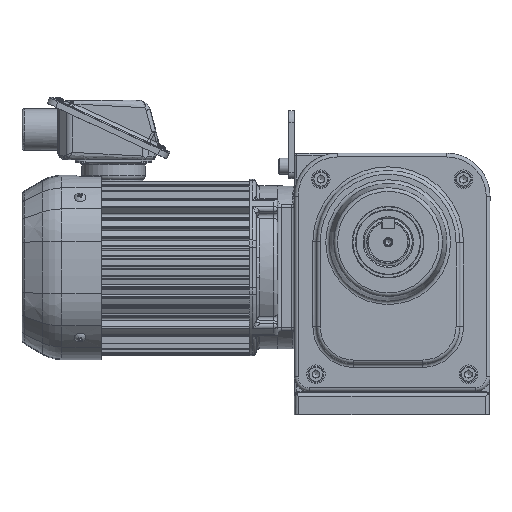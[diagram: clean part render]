
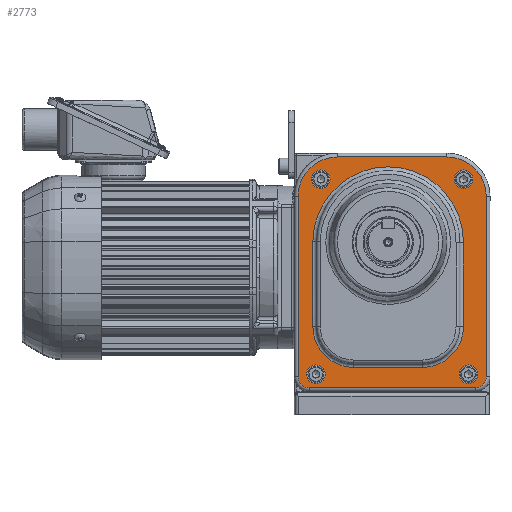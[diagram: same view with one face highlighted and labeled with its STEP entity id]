
A CAD part, front view. The second image highlights one B-rep face of the part: STEP entity #2773.
In plain terms, the highlighted planar face has unit normal (0, -1, 0).
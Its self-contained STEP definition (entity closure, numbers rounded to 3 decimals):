
#2773 = ADVANCED_FACE( '', ( #6799, #6800, #6801, #6802, #6803, #6804 ), #6805, .F. );
#6799 = FACE_BOUND( '', #15276, .T. );
#6800 = FACE_BOUND( '', #15277, .T. );
#6801 = FACE_BOUND( '', #15278, .T. );
#6802 = FACE_BOUND( '', #15279, .T. );
#6803 = FACE_OUTER_BOUND( '', #15280, .T. );
#6804 = FACE_BOUND( '', #15281, .T. );
#6805 = PLANE( '', #15282 );
#15276 = EDGE_LOOP( '', ( #28721 ) );
#15277 = EDGE_LOOP( '', ( #28722 ) );
#15278 = EDGE_LOOP( '', ( #28723 ) );
#15279 = EDGE_LOOP( '', ( #28724 ) );
#15280 = EDGE_LOOP( '', ( #28725, #28726, #28727, #28728, #28729, #28730, #28731, #28732 ) );
#15281 = EDGE_LOOP( '', ( #28733, #28734, #28735, #28736, #28737, #28738 ) );
#15282 = AXIS2_PLACEMENT_3D( '', #28739, #28740, #28741 );
#28721 = ORIENTED_EDGE( '', *, *, #41351, .T. );
#28722 = ORIENTED_EDGE( '', *, *, #41352, .T. );
#28723 = ORIENTED_EDGE( '', *, *, #41353, .T. );
#28724 = ORIENTED_EDGE( '', *, *, #41354, .T. );
#28725 = ORIENTED_EDGE( '', *, *, #41355, .T. );
#28726 = ORIENTED_EDGE( '', *, *, #39883, .T. );
#28727 = ORIENTED_EDGE( '', *, *, #41356, .T. );
#28728 = ORIENTED_EDGE( '', *, *, #41357, .T. );
#28729 = ORIENTED_EDGE( '', *, *, #41358, .T. );
#28730 = ORIENTED_EDGE( '', *, *, #40379, .T. );
#28731 = ORIENTED_EDGE( '', *, *, #41359, .T. );
#28732 = ORIENTED_EDGE( '', *, *, #41360, .T. );
#28733 = ORIENTED_EDGE( '', *, *, #39635, .T. );
#28734 = ORIENTED_EDGE( '', *, *, #41361, .T. );
#28735 = ORIENTED_EDGE( '', *, *, #40411, .T. );
#28736 = ORIENTED_EDGE( '', *, *, #41362, .T. );
#28737 = ORIENTED_EDGE( '', *, *, #41363, .T. );
#28738 = ORIENTED_EDGE( '', *, *, #39959, .T. );
#28739 = CARTESIAN_POINT( '', ( 182.256, -124.56, -74.089 ) );
#28740 = DIRECTION( '', ( 0., 1., 0. ) );
#28741 = DIRECTION( '', ( 0., 0., -1. ) );
#39635 = EDGE_CURVE( '', #45918, #45923, #45925, .F. );
#39883 = EDGE_CURVE( '', #46353, #46351, #46354, .F. );
#39959 = EDGE_CURVE( '', #46476, #45918, #46478, .T. );
#40379 = EDGE_CURVE( '', #47175, #47172, #47176, .F. );
#40411 = EDGE_CURVE( '', #47226, #47224, #47227, .F. );
#41351 = EDGE_CURVE( '', #48740, #48740, #48741, .T. );
#41352 = EDGE_CURVE( '', #48742, #48742, #48743, .T. );
#41353 = EDGE_CURVE( '', #48744, #48744, #48745, .T. );
#41354 = EDGE_CURVE( '', #48746, #48746, #48747, .T. );
#41355 = EDGE_CURVE( '', #48748, #46353, #48749, .F. );
#41356 = EDGE_CURVE( '', #46351, #48750, #48751, .F. );
#41357 = EDGE_CURVE( '', #48750, #48752, #48753, .F. );
#41358 = EDGE_CURVE( '', #48752, #47175, #48754, .F. );
#41359 = EDGE_CURVE( '', #47172, #48755, #48756, .F. );
#41360 = EDGE_CURVE( '', #48755, #48748, #48757, .F. );
#41361 = EDGE_CURVE( '', #45923, #47226, #48758, .T. );
#41362 = EDGE_CURVE( '', #47224, #48759, #48760, .T. );
#41363 = EDGE_CURVE( '', #48759, #46476, #48761, .F. );
#45918 = VERTEX_POINT( '', #55690 );
#45923 = VERTEX_POINT( '', #55696 );
#45925 = LINE( '', #55715, #55716 );
#46351 = VERTEX_POINT( '', #56493 );
#46353 = VERTEX_POINT( '', #56495 );
#46354 = LINE( '', #56496, #56497 );
#46476 = VERTEX_POINT( '', #56714 );
#46478 = CIRCLE( '', #56716, 33. );
#47172 = VERTEX_POINT( '', #58173 );
#47175 = VERTEX_POINT( '', #58176 );
#47176 = LINE( '', #58177, #58178 );
#47224 = VERTEX_POINT( '', #58363 );
#47226 = VERTEX_POINT( '', #58365 );
#47227 = LINE( '', #58366, #58367 );
#48740 = VERTEX_POINT( '', #61232 );
#48741 = CIRCLE( '', #61233, 7.5 );
#48742 = VERTEX_POINT( '', #61234 );
#48743 = CIRCLE( '', #61235, 7.5 );
#48744 = VERTEX_POINT( '', #61236 );
#48745 = CIRCLE( '', #61237, 7.5 );
#48746 = VERTEX_POINT( '', #61238 );
#48747 = CIRCLE( '', #61239, 7.5 );
#48748 = VERTEX_POINT( '', #61240 );
#48749 = CIRCLE( '', #61241, 32. );
#48750 = VERTEX_POINT( '', #61242 );
#48751 = CIRCLE( '', #61243, 9. );
#48752 = VERTEX_POINT( '', #61244 );
#48753 = LINE( '', #61245, #61246 );
#48754 = CIRCLE( '', #61247, 9. );
#48755 = VERTEX_POINT( '', #61248 );
#48756 = CIRCLE( '', #61249, 32. );
#48757 = LINE( '', #61250, #61251 );
#48758 = CIRCLE( '', #61252, 61.002 );
#48759 = VERTEX_POINT( '', #61253 );
#48760 = CIRCLE( '', #61254, 33. );
#48761 = LINE( '', #61255, #61256 );
#55690 = CARTESIAN_POINT( '', ( 50.756, -124.56, -33.589 ) );
#55696 = CARTESIAN_POINT( '', ( 50.756, -124.56, 35.424 ) );
#55715 = CARTESIAN_POINT( '', ( 50.756, -124.56, 35.411 ) );
#55716 = VECTOR( '', #70620, 1000. );
#56493 = CARTESIAN_POINT( '', ( 38.756, -124.56, -74.089 ) );
#56495 = CARTESIAN_POINT( '', ( 38.756, -124.56, 71.911 ) );
#56496 = CARTESIAN_POINT( '', ( 38.756, -124.56, -74.089 ) );
#56497 = VECTOR( '', #70965, 1000. );
#56714 = CARTESIAN_POINT( '', ( 83.756, -124.56, -66.589 ) );
#56716 = AXIS2_PLACEMENT_3D( '', #71076, #71077, #71078 );
#58173 = CARTESIAN_POINT( '', ( 191.256, -124.56, 71.911 ) );
#58176 = CARTESIAN_POINT( '', ( 191.256, -124.56, -74.089 ) );
#58177 = CARTESIAN_POINT( '', ( 191.256, -124.56, 71.911 ) );
#58178 = VECTOR( '', #71642, 1000. );
#58363 = CARTESIAN_POINT( '', ( 172.756, -124.56, -33.589 ) );
#58365 = CARTESIAN_POINT( '', ( 172.756, -124.56, 34.399 ) );
#58366 = CARTESIAN_POINT( '', ( 172.756, -124.56, -33.589 ) );
#58367 = VECTOR( '', #71687, 1000. );
#61232 = CARTESIAN_POINT( '', ( 57.256, -124.56, 93.411 ) );
#61233 = AXIS2_PLACEMENT_3D( '', #73174, #73175, #73176 );
#61234 = CARTESIAN_POINT( '', ( 172.756, -124.56, 93.411 ) );
#61235 = AXIS2_PLACEMENT_3D( '', #73177, #73178, #73179 );
#61236 = CARTESIAN_POINT( '', ( 176.756, -124.56, -64.589 ) );
#61237 = AXIS2_PLACEMENT_3D( '', #73180, #73181, #73182 );
#61238 = CARTESIAN_POINT( '', ( 53.256, -124.56, -64.589 ) );
#61239 = AXIS2_PLACEMENT_3D( '', #73183, #73184, #73185 );
#61240 = CARTESIAN_POINT( '', ( 70.756, -124.56, 103.911 ) );
#61241 = AXIS2_PLACEMENT_3D( '', #73186, #73187, #73188 );
#61242 = CARTESIAN_POINT( '', ( 47.756, -124.56, -83.089 ) );
#61243 = AXIS2_PLACEMENT_3D( '', #73189, #73190, #73191 );
#61244 = CARTESIAN_POINT( '', ( 182.256, -124.56, -83.089 ) );
#61245 = CARTESIAN_POINT( '', ( 182.256, -124.56, -83.089 ) );
#61246 = VECTOR( '', #73192, 1000. );
#61247 = AXIS2_PLACEMENT_3D( '', #73193, #73194, #73195 );
#61248 = CARTESIAN_POINT( '', ( 159.256, -124.56, 103.911 ) );
#61249 = AXIS2_PLACEMENT_3D( '', #73196, #73197, #73198 );
#61250 = CARTESIAN_POINT( '', ( 70.756, -124.56, 103.911 ) );
#61251 = VECTOR( '', #73199, 1000. );
#61252 = AXIS2_PLACEMENT_3D( '', #73200, #73201, #73202 );
#61253 = CARTESIAN_POINT( '', ( 139.756, -124.56, -66.589 ) );
#61254 = AXIS2_PLACEMENT_3D( '', #73203, #73204, #73205 );
#61255 = CARTESIAN_POINT( '', ( 83.756, -124.56, -66.589 ) );
#61256 = VECTOR( '', #73206, 1000. );
#70620 = DIRECTION( '', ( 0., 0., -1. ) );
#70965 = DIRECTION( '', ( 0., 0., 1. ) );
#71076 = CARTESIAN_POINT( '', ( 83.756, -124.56, -33.589 ) );
#71077 = DIRECTION( '', ( 0., 1., 0. ) );
#71078 = DIRECTION( '', ( 0., 0., -1. ) );
#71642 = DIRECTION( '', ( 0., 0., -1. ) );
#71687 = DIRECTION( '', ( 0., 0., 1. ) );
#73174 = CARTESIAN_POINT( '', ( 57.256, -124.56, 85.911 ) );
#73175 = DIRECTION( '', ( 0., 1., 0. ) );
#73176 = DIRECTION( '', ( 0., 0., 1. ) );
#73177 = CARTESIAN_POINT( '', ( 172.756, -124.56, 85.911 ) );
#73178 = DIRECTION( '', ( 0., 1., 0. ) );
#73179 = DIRECTION( '', ( 0., 0., 1. ) );
#73180 = CARTESIAN_POINT( '', ( 176.756, -124.56, -72.089 ) );
#73181 = DIRECTION( '', ( 0., 1., 0. ) );
#73182 = DIRECTION( '', ( 0., 0., 1. ) );
#73183 = CARTESIAN_POINT( '', ( 53.256, -124.56, -72.089 ) );
#73184 = DIRECTION( '', ( 0., 1., 0. ) );
#73185 = DIRECTION( '', ( 0., 0., 1. ) );
#73186 = CARTESIAN_POINT( '', ( 70.756, -124.56, 71.911 ) );
#73187 = DIRECTION( '', ( 0., 1., 0. ) );
#73188 = DIRECTION( '', ( 0., 0., -1. ) );
#73189 = CARTESIAN_POINT( '', ( 47.756, -124.56, -74.089 ) );
#73190 = DIRECTION( '', ( 0., 1., 0. ) );
#73191 = DIRECTION( '', ( 0., 0., -1. ) );
#73192 = DIRECTION( '', ( -1., 0., 0. ) );
#73193 = CARTESIAN_POINT( '', ( 182.256, -124.56, -74.089 ) );
#73194 = DIRECTION( '', ( 0., 1., 0. ) );
#73195 = DIRECTION( '', ( 0., 0., -1. ) );
#73196 = CARTESIAN_POINT( '', ( 159.256, -124.56, 71.911 ) );
#73197 = DIRECTION( '', ( 0., 1., 0. ) );
#73198 = DIRECTION( '', ( 0., 0., -1. ) );
#73199 = DIRECTION( '', ( 1., 0., 0. ) );
#73200 = CARTESIAN_POINT( '', ( 111.756, -124.56, 34.911 ) );
#73201 = DIRECTION( '', ( 0., 1., 0. ) );
#73202 = DIRECTION( '', ( 0., 0., -1. ) );
#73203 = CARTESIAN_POINT( '', ( 139.756, -124.56, -33.589 ) );
#73204 = DIRECTION( '', ( 0., 1., 0. ) );
#73205 = DIRECTION( '', ( 0., 0., -1. ) );
#73206 = DIRECTION( '', ( 1., 0., 0. ) );
